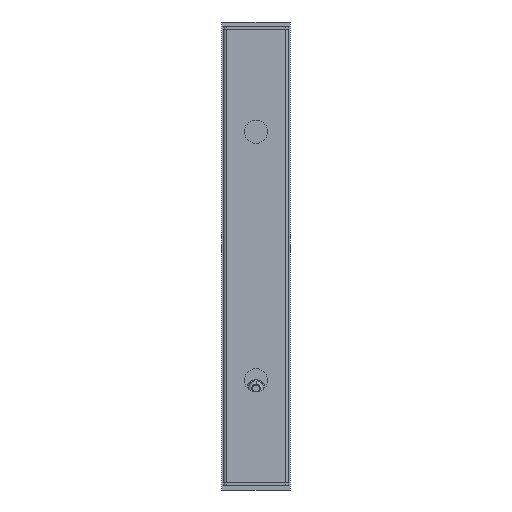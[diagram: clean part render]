
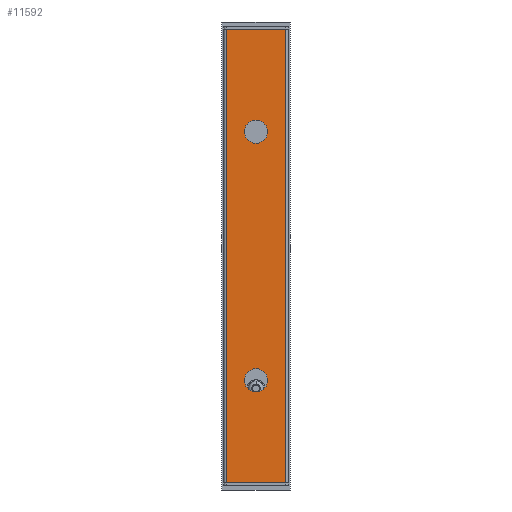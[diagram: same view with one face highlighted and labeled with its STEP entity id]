
A CAD part, front view. The second image highlights one B-rep face of the part: STEP entity #11592.
In plain terms, the highlighted planar face has unit normal (0, -1, 0).
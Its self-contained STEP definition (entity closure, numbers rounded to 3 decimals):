
#9825=DIRECTION('',(1.,0.,0.));
#9826=VECTOR('',#9825,72.);
#9827=CARTESIAN_POINT('',(7662.499,4612.843,274.));
#9828=LINE('',#9827,#9826);
#9829=DIRECTION('',(-1.,0.,0.));
#9830=VECTOR('',#9829,72.);
#9831=CARTESIAN_POINT('',(7734.499,4612.843,-274.));
#9832=LINE('',#9831,#9830);
#9833=DIRECTION('',(0.,0.,1.));
#9834=VECTOR('',#9833,548.);
#9835=CARTESIAN_POINT('',(7662.499,4612.843,-274.));
#9836=LINE('',#9835,#9834);
#9837=CARTESIAN_POINT('',(7698.499,4612.843,150.));
#9838=DIRECTION('',(0.,-1.,0.));
#9839=DIRECTION('',(0.,0.,-1.));
#9840=AXIS2_PLACEMENT_3D('',#9837,#9838,#9839);
#9842=CARTESIAN_POINT('',(7698.499,4612.843,150.));
#9843=DIRECTION('',(0.,-1.,0.));
#9844=DIRECTION('',(0.,0.,1.));
#9845=AXIS2_PLACEMENT_3D('',#9842,#9843,#9844);
#9847=CARTESIAN_POINT('',(7698.499,4612.843,-150.));
#9848=DIRECTION('',(0.,-1.,0.));
#9849=DIRECTION('',(0.,0.,-1.));
#9850=AXIS2_PLACEMENT_3D('',#9847,#9848,#9849);
#9852=CARTESIAN_POINT('',(7698.499,4612.843,-150.));
#9853=DIRECTION('',(0.,-1.,0.));
#9854=DIRECTION('',(0.,0.,1.));
#9855=AXIS2_PLACEMENT_3D('',#9852,#9853,#9854);
#9857=DIRECTION('',(0.,0.,1.));
#9858=VECTOR('',#9857,548.);
#9859=CARTESIAN_POINT('',(7734.499,4612.843,-274.));
#9860=LINE('',#9859,#9858);
#10378=CARTESIAN_POINT('',(7662.499,4612.843,-274.));
#10380=VERTEX_POINT('',#10378);
#10381=CARTESIAN_POINT('',(7734.499,4612.843,-274.));
#10383=VERTEX_POINT('',#10381);
#10434=CARTESIAN_POINT('',(7662.499,4612.843,274.));
#10436=VERTEX_POINT('',#10434);
#10437=CARTESIAN_POINT('',(7734.499,4612.843,274.));
#10439=VERTEX_POINT('',#10437);
#10761=CARTESIAN_POINT('',(7698.499,4612.843,135.9));
#10762=CARTESIAN_POINT('',(7698.499,4612.843,164.1));
#10763=VERTEX_POINT('',#10761);
#10764=VERTEX_POINT('',#10762);
#10765=CARTESIAN_POINT('',(7698.499,4612.843,-164.1));
#10766=CARTESIAN_POINT('',(7698.499,4612.843,-135.9));
#10767=VERTEX_POINT('',#10765);
#10768=VERTEX_POINT('',#10766);
#11568=CARTESIAN_POINT('',(7662.499,4612.843,-509.));
#11569=DIRECTION('',(0.,-1.,0.));
#11570=DIRECTION('',(1.,0.,0.));
#11571=AXIS2_PLACEMENT_3D('',#11568,#11569,#11570);
#11572=PLANE('',#11571);
#11573=ORIENTED_EDGE('',*,*,#11071,.T.);
#11575=ORIENTED_EDGE('',*,*,#11574,.F.);
#11576=ORIENTED_EDGE('',*,*,#10953,.T.);
#11577=ORIENTED_EDGE('',*,*,#11563,.T.);
#11578=EDGE_LOOP('',(#11573,#11575,#11576,#11577));
#11579=FACE_OUTER_BOUND('',#11578,.F.);
#11581=ORIENTED_EDGE('',*,*,#11580,.T.);
#11583=ORIENTED_EDGE('',*,*,#11582,.T.);
#11584=EDGE_LOOP('',(#11581,#11583));
#11585=FACE_BOUND('',#11584,.F.);
#11587=ORIENTED_EDGE('',*,*,#11586,.T.);
#11589=ORIENTED_EDGE('',*,*,#11588,.T.);
#11590=EDGE_LOOP('',(#11587,#11589));
#11591=FACE_BOUND('',#11590,.F.);
#11592=ADVANCED_FACE('',(#11579,#11585,#11591),#11572,.T.);
#9841=CIRCLE('',#9840,14.1);
#9846=CIRCLE('',#9845,14.1);
#9851=CIRCLE('',#9850,14.1);
#9856=CIRCLE('',#9855,14.1);
#10953=EDGE_CURVE('',#10383,#10380,#9832,.T.);
#11071=EDGE_CURVE('',#10436,#10439,#9828,.T.);
#11563=EDGE_CURVE('',#10380,#10436,#9836,.T.);
#11574=EDGE_CURVE('',#10383,#10439,#9860,.T.);
#11580=EDGE_CURVE('',#10763,#10764,#9841,.T.);
#11582=EDGE_CURVE('',#10764,#10763,#9846,.T.);
#11586=EDGE_CURVE('',#10767,#10768,#9851,.T.);
#11588=EDGE_CURVE('',#10768,#10767,#9856,.T.);
